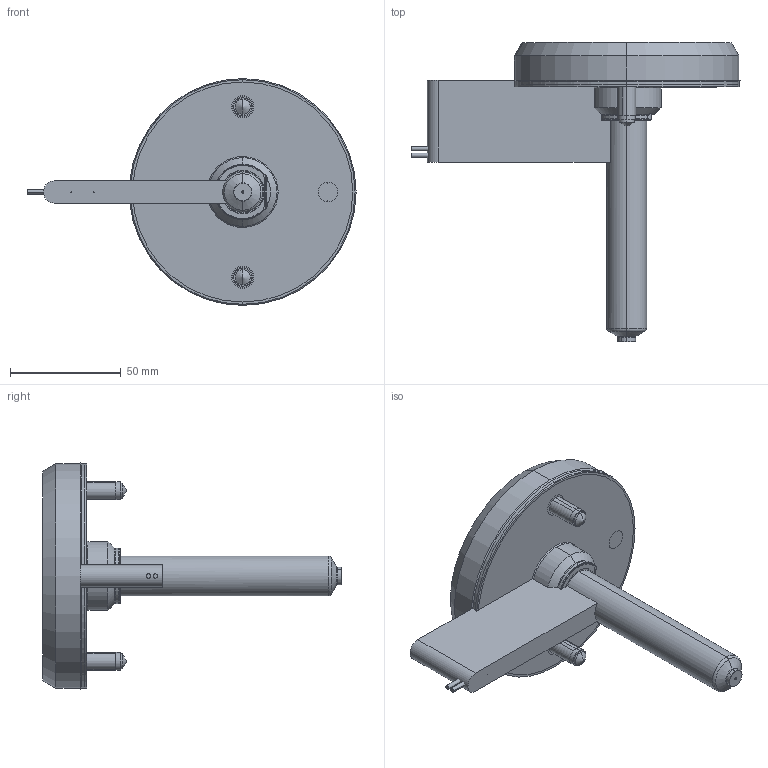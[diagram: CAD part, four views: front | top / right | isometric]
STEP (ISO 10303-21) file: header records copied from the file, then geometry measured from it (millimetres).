
FILE_DESCRIPTION (( 'STEP AP214' ), '1' );
FILE_NAME ('SOHSB4100-SOFBOP04.STEP', '2024-11-29T06:23:13', ( '' ), ( '' ), 'SwSTEP 2.0', 'SolidWorks 2022', '' );
FILE_SCHEMA (( 'AUTOMOTIVE_DESIGN' ));
Length unit declared in the file: millimetre
Products named in the file (11): socket head cap screw_iso_ISO 4762 M8 x 25 - 25N; EcoONE-HSBPoint Gate Needle Tip-Standard_SOPGN0401; EcoONE-HSB04-04 Open Gate Cut-out Details_Sprue Gate or Full Body Gate; EcoONE-HSB04-04005(A)_SOTC10200-J; EcoONE-HSB04-04003(A)_SOHSBNB4100; EcoONE-HSB04-Open Gate Full Body Standad Tip Assembly_SOFBOP04; EcoONE-HSB04-00002(A)_SOHSBLR04; EcoONE-HSB04-04006(A)_SONHC04; SOHSB4100-SOFBOP04; EcoONE-HSB04-04004(A)_SONH10097; EcoONE-HSBOpen Gate Full Body Retainer Tip_SOFRT0401
Assembly tree (13 placements, depth 3):
  SOHSB4100-SOFBOP04
    EcoONE-HSB04-04003(A)_SOHSBNB4100
    EcoONE-HSB04-04004(A)_SONH10097
    EcoONE-HSB04-04005(A)_SOTC10200-J
    EcoONE-HSB04-04006(A)_SONHC04  x2
    EcoONE-HSB04-00002(A)_SOHSBLR04
    socket head cap screw_iso_ISO 4762 M8 x 25 - 25N  x3
    EcoONE-HSB04-04 Open Gate Cut-out Details_Sprue Gate or Full Body Gate
    EcoONE-HSB04-Open Gate Full Body Standad Tip Assembly_SOFBOP04
      EcoONE-HSBOpen Gate Full Body Retainer Tip_SOFRT0401
      EcoONE-HSBPoint Gate Needle Tip-Standard_SOPGN0401
Bounding box: 148.2 x 135 x 102.4 mm (x, y, z)
Volume: 241395.4 mm3; surface area: 76822.1 mm2
Topology: 12 solids, 12 shells, 530 faces, 1312 edges, 817 vertices
Faces by surface type: cylinder 160, plane 154, cone 87, bspline 87, torus 34, sphere 8
Entity records: 24736 total; most frequent: CARTESIAN_POINT 13466, ORIENTED_EDGE 2284, DIRECTION 2010, EDGE_CURVE 1142, AXIS2_PLACEMENT_3D 813, VERTEX_POINT 721, EDGE_LOOP 499, ADVANCED_FACE 460
